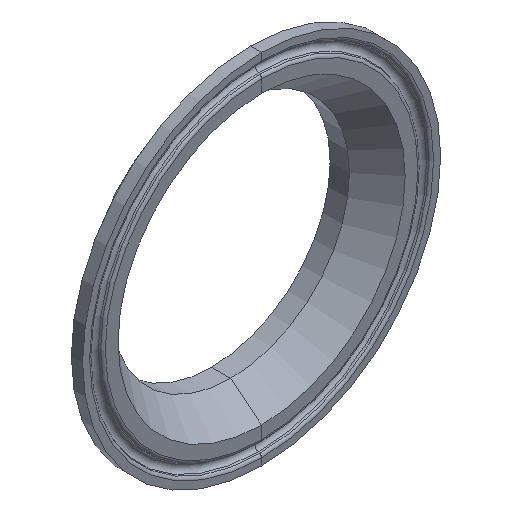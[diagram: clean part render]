
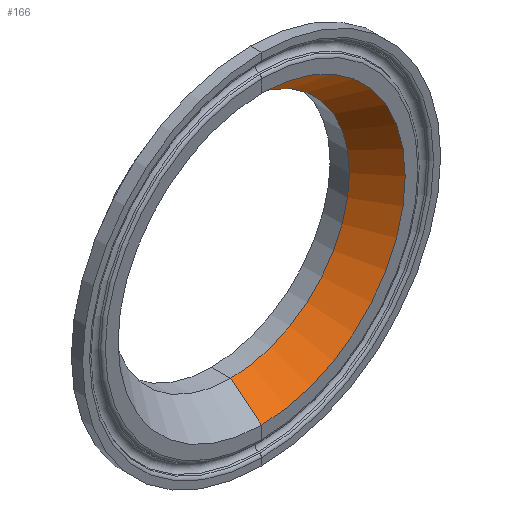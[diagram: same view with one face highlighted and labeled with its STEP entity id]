
A CAD part, isometric view. The second image highlights one B-rep face of the part: STEP entity #166.
In plain terms, the highlighted conical face has half-angle 39.1 degrees and reference radius 36.449 mm.
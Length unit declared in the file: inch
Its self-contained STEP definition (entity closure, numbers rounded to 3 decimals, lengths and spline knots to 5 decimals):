
#6 = VECTOR ( 'NONE', #255, 39.37008 ) ;
#33 = DIRECTION ( 'NONE',  ( 0., -1., 0. ) ) ;
#38 = LINE ( 'NONE', #78, #6 ) ;
#78 = CARTESIAN_POINT ( 'NONE',  ( 0., 0., -1.435 ) ) ;
#129 = CARTESIAN_POINT ( 'NONE',  ( 0., 0., -1.435 ) ) ;
#166 = ADVANCED_FACE ( 'NONE', ( #225 ), #680, .F. ) ;
#181 = ORIENTED_EDGE ( 'NONE', *, *, #702, .F. ) ;
#195 = DIRECTION ( 'NONE',  ( 0., 0., -1. ) ) ;
#205 = CARTESIAN_POINT ( 'NONE',  ( 0., 0., 0. ) ) ;
#207 = CARTESIAN_POINT ( 'NONE',  ( 0., 0., 1.435 ) ) ;
#225 = FACE_OUTER_BOUND ( 'NONE', #757, .T. ) ;
#255 = DIRECTION ( 'NONE',  ( 0., -0.776, -0.631 ) ) ;
#262 = CARTESIAN_POINT ( 'NONE',  ( 0., 0., 1.435 ) ) ;
#266 = AXIS2_PLACEMENT_3D ( 'NONE', #321, #780, #382 ) ;
#270 = ORIENTED_EDGE ( 'NONE', *, *, #595, .F. ) ;
#302 = VECTOR ( 'NONE', #450, 39.37008 ) ;
#314 = DIRECTION ( 'NONE',  ( 0., -1., 0. ) ) ;
#321 = CARTESIAN_POINT ( 'NONE',  ( 0., 0., 0. ) ) ;
#382 = DIRECTION ( 'NONE',  ( 0., 0., -1. ) ) ;
#392 = LINE ( 'NONE', #262, #302 ) ;
#395 = ORIENTED_EDGE ( 'NONE', *, *, #718, .T. ) ;
#405 = VERTEX_POINT ( 'NONE', #575 ) ;
#407 = AXIS2_PLACEMENT_3D ( 'NONE', #205, #33, #195 ) ;
#450 = DIRECTION ( 'NONE',  ( 0., -0.776, 0.631 ) ) ;
#499 = CARTESIAN_POINT ( 'NONE',  ( 0., 0.30762, -1.185 ) ) ;
#514 = VERTEX_POINT ( 'NONE', #207 ) ;
#557 = AXIS2_PLACEMENT_3D ( 'NONE', #714, #314, #774 ) ;
#575 = CARTESIAN_POINT ( 'NONE',  ( 0., 0.30762, 1.185 ) ) ;
#584 = VERTEX_POINT ( 'NONE', #499 ) ;
#595 = EDGE_CURVE ( 'NONE', #584, #405, #659, .T. ) ;
#659 = CIRCLE ( 'NONE', #557, 1.185 ) ;
#680 = CONICAL_SURFACE ( 'NONE', #407, 1.435, 0.682 ) ;
#695 = EDGE_CURVE ( 'NONE', #584, #712, #38, .T. ) ;
#702 = EDGE_CURVE ( 'NONE', #405, #514, #392, .T. ) ;
#712 = VERTEX_POINT ( 'NONE', #129 ) ;
#714 = CARTESIAN_POINT ( 'NONE',  ( 0., 0.30762, 0. ) ) ;
#718 = EDGE_CURVE ( 'NONE', #712, #514, #808, .T. ) ;
#757 = EDGE_LOOP ( 'NONE', ( #181, #270, #791, #395 ) ) ;
#774 = DIRECTION ( 'NONE',  ( 0., 0., -1. ) ) ;
#780 = DIRECTION ( 'NONE',  ( 0., -1., 0. ) ) ;
#791 = ORIENTED_EDGE ( 'NONE', *, *, #695, .T. ) ;
#808 = CIRCLE ( 'NONE', #266, 1.435 ) ;
